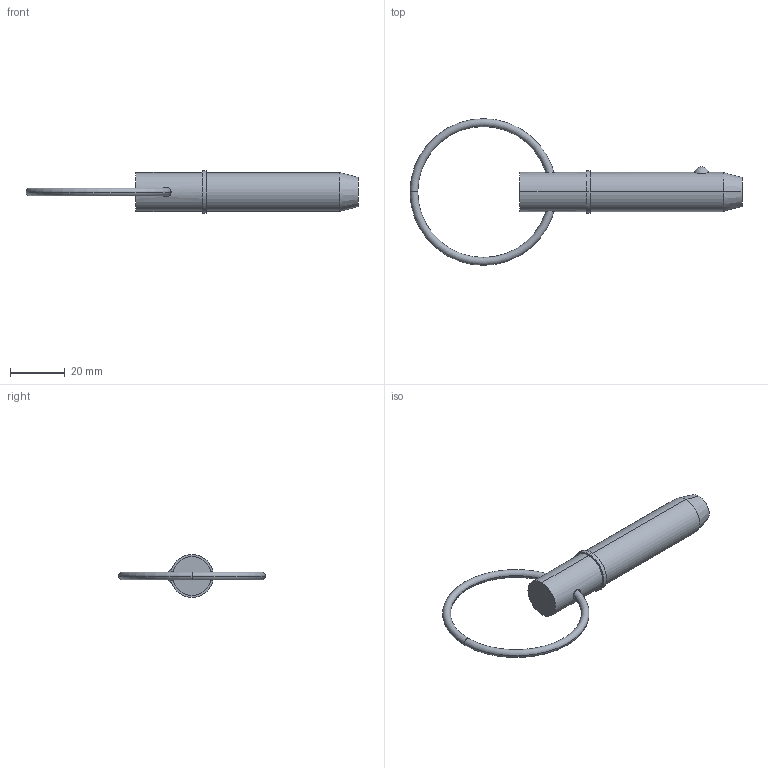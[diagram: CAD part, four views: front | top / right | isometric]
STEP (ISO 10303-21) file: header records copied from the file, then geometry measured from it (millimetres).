
FILE_DESCRIPTION (( 'STEP AP203' ), '1' );
FILE_NAME ('33016.W5615.step', '2024-11-07T11:10:36', ( '' ), ( '' ), 'SwSTEP 2.0', 'SolidWorks 2019', '' );
FILE_SCHEMA (( 'CONFIG_CONTROL_DESIGN' ));
Length unit declared in the file: millimetre
Products named in the file (3): Part1_33016.W5615; Part2_33016.W5615; 33016.W5615
Assembly tree (2 placements, depth 2):
  33016.W5615
    Part1_33016.W5615
    Part2_33016.W5615
Bounding box: 121.46 x 53.66 x 15.72 mm (x, y, z)
Volume: 13743.2 mm3; surface area: 5531.7 mm2
Topology: 2 solids, 2 shells, 22 faces, 43 edges, 26 vertices
Faces by surface type: torus 8, cylinder 6, plane 4, sphere 2, cone 2
Entity records: 1039 total; most frequent: CARTESIAN_POINT 262, DIRECTION 120, ORIENTED_EDGE 86, AXIS2_PLACEMENT_3D 56, EDGE_CURVE 43, CIRCLE 29, EDGE_LOOP 27, VERTEX_POINT 26
